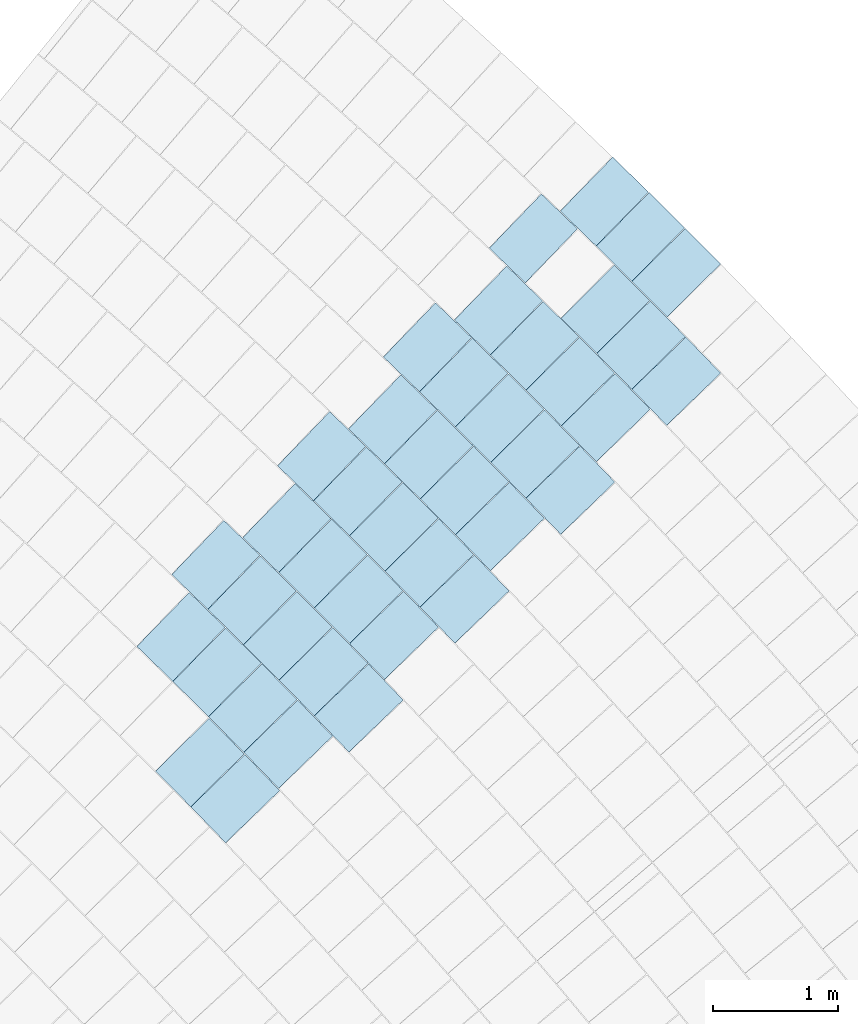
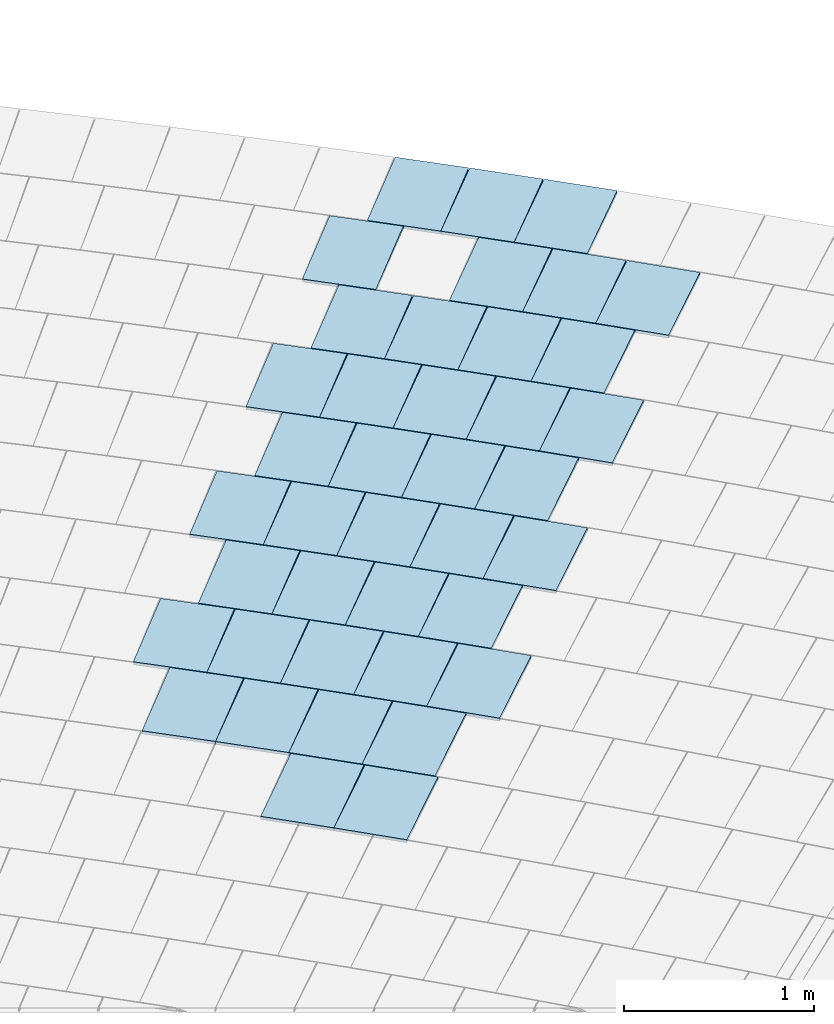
# One storey, part 14 of 438: 40 slabs.
"""IFC2X3 building model written with IfcOpenShell, lengths in millimetres."""

from ifc_helpers import new_model, entity, si_unit, converted_unit, derived_unit, direction, frame, origin, place, context, subcontext, project, spatial, polyline, outline, extrude, material, layer, layer_set, layer_usage, type_object, element, save


model = new_model("IFC2X3")

# Units and contexts
model_context = context("Model", 3, precision=0.01, world=origin(), true_north=direction((6.123031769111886e-17, 1.0)))
body_context = subcontext(model_context, "Body", "Model", "MODEL_VIEW")
ifc_project = project(units=[si_unit("LENGTHUNIT", "METRE", prefix="MILLI"), si_unit("AREAUNIT", "SQUARE_METRE"), si_unit("VOLUMEUNIT", "CUBIC_METRE"), converted_unit("PLANEANGLEUNIT", "DEGREE", entity("IfcRatioMeasure", 0.017453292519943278), si_unit("PLANEANGLEUNIT", "RADIAN"), dimensions=[0, 0, 0, 0, 0, 0, 0]), si_unit("MASSUNIT", "GRAM", prefix="KILO"), derived_unit("MASSDENSITYUNIT", [(si_unit("MASSUNIT", "GRAM", prefix="KILO"), 1), (si_unit("LENGTHUNIT", "METRE"), -3)]), derived_unit("MOMENTOFINERTIAUNIT", [(si_unit("LENGTHUNIT", "METRE"), 4)]), si_unit("TIMEUNIT", "SECOND"), si_unit("FREQUENCYUNIT", "HERTZ"), si_unit("THERMODYNAMICTEMPERATUREUNIT", "DEGREE_CELSIUS"), derived_unit("THERMALTRANSMITTANCEUNIT", [(si_unit("MASSUNIT", "GRAM", prefix="KILO"), 1), (si_unit("THERMODYNAMICTEMPERATUREUNIT", "KELVIN"), -1), (si_unit("TIMEUNIT", "SECOND"), -3)]), derived_unit("THERMALCONDUCTANCEUNIT", [(si_unit("MASSUNIT", "GRAM", prefix="KILO"), 1), (si_unit("LENGTHUNIT", "METRE"), 1), (si_unit("THERMODYNAMICTEMPERATUREUNIT", "KELVIN"), -1), (si_unit("TIMEUNIT", "SECOND"), -3)]), derived_unit("VOLUMETRICFLOWRATEUNIT", [(si_unit("LENGTHUNIT", "METRE"), 3), (si_unit("TIMEUNIT", "SECOND"), -1)]), derived_unit("MASSFLOWRATEUNIT", [(si_unit("MASSUNIT", "GRAM", prefix="KILO"), 1), (si_unit("TIMEUNIT", "SECOND"), -1)]), derived_unit("ROTATIONALFREQUENCYUNIT", [(si_unit("TIMEUNIT", "SECOND"), -1)]), si_unit("ELECTRICCURRENTUNIT", "AMPERE"), si_unit("ELECTRICVOLTAGEUNIT", "VOLT"), si_unit("POWERUNIT", "WATT"), converted_unit("FORCEUNIT", "KIP", entity("IfcRatioMeasure", 2.088543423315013e-05), si_unit("FORCEUNIT", "NEWTON"), dimensions=[1, 1, -2, 0, 0, 0, 0]), si_unit("ILLUMINANCEUNIT", "LUX"), si_unit("LUMINOUSFLUXUNIT", "LUMEN"), si_unit("LUMINOUSINTENSITYUNIT", "CANDELA"), derived_unit("USERDEFINED", [(si_unit("MASSUNIT", "GRAM", prefix="KILO"), -1), (si_unit("LENGTHUNIT", "METRE"), -2), (si_unit("TIMEUNIT", "SECOND"), 3), (si_unit("LUMINOUSFLUXUNIT", "LUMEN"), 1)]), derived_unit("USERDEFINED", [(si_unit("MASSUNIT", "GRAM", prefix="KILO"), 1), (si_unit("LENGTHUNIT", "METRE"), 3), (si_unit("TIMEUNIT", "SECOND"), -3), (si_unit("ELECTRICCURRENTUNIT", "AMPERE"), -2)]), derived_unit("USERDEFINED", [(si_unit("LENGTHUNIT", "METRE"), 2), (si_unit("TIMEUNIT", "SECOND"), -2)]), derived_unit("SOUNDPOWERUNIT", [(si_unit("MASSUNIT", "GRAM", prefix="KILO"), 1), (si_unit("LENGTHUNIT", "METRE"), 2), (si_unit("TIMEUNIT", "SECOND"), -3)]), derived_unit("SOUNDPRESSUREUNIT", [(si_unit("MASSUNIT", "GRAM", prefix="KILO"), 1), (si_unit("LENGTHUNIT", "METRE"), -1), (si_unit("TIMEUNIT", "SECOND"), -2)]), derived_unit("LINEARVELOCITYUNIT", [(si_unit("LENGTHUNIT", "METRE"), 1), (si_unit("TIMEUNIT", "SECOND"), -1)]), si_unit("PRESSUREUNIT", "PASCAL"), derived_unit("USERDEFINED", [(si_unit("LENGTHUNIT", "METRE"), -2), (si_unit("MASSUNIT", "GRAM", prefix="KILO"), 1), (si_unit("TIMEUNIT", "SECOND"), -2)]), derived_unit("LINEARFORCEUNIT", [(si_unit("MASSUNIT", "GRAM", prefix="KILO"), 1), (si_unit("LENGTHUNIT", "METRE"), 1), (si_unit("TIMEUNIT", "SECOND"), -2), (si_unit("LENGTHUNIT", "METRE"), -1)]), derived_unit("PLANARFORCEUNIT", [(si_unit("MASSUNIT", "GRAM", prefix="KILO"), 1), (si_unit("LENGTHUNIT", "METRE"), 1), (si_unit("TIMEUNIT", "SECOND"), -2), (si_unit("LENGTHUNIT", "METRE"), -2)]), derived_unit("SPECIFICHEATCAPACITYUNIT", [(si_unit("LENGTHUNIT", "METRE"), 2), (si_unit("TIMEUNIT", "SECOND"), -2), (si_unit("THERMODYNAMICTEMPERATUREUNIT", "KELVIN"), -1)]), derived_unit("VAPORPERMEABILITYUNIT", [(si_unit("TIMEUNIT", "SECOND"), 1), (si_unit("LENGTHUNIT", "METRE"), -1)]), derived_unit("DYNAMICVISCOSITYUNIT", [(si_unit("MASSUNIT", "GRAM", prefix="KILO"), 1), (si_unit("LENGTHUNIT", "METRE"), -1), (si_unit("TIMEUNIT", "SECOND"), -1)]), derived_unit("THERMALEXPANSIONCOEFFICIENTUNIT", [(si_unit("THERMODYNAMICTEMPERATUREUNIT", "KELVIN"), -1)])], contexts=[model_context])

# Site, building, storey
site_placement = place(None, frame((0.0, 0.0, 0.0), z_axis=(0.0, 0.0, 1.0), x_axis=(0.8191520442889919, 0.5735764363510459, 0.0)))
site = spatial("IfcSite", under=ifc_project, at=site_placement, Name="Default", CompositionType="ELEMENT")
building_placement = place(site_placement, origin())
building = spatial("IfcBuilding", under=site, at=building_placement, CompositionType="ELEMENT")
storey_placement = place(building_placement, origin())
storey = spatial("IfcBuildingStorey", under=building, at=storey_placement, Name="PLAN", CompositionType="ELEMENT", Elevation=0.0)

# Slabs
ifc_material = material(Name="Paint-01")
ifc_layer = layer(ifc_material, 20.00000000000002)
ifc_layer_set = layer_set([ifc_layer], Name="Floor:Slab-179:1000")
ifc_layer_usage = layer_usage(ifc_layer_set, "AXIS3", "POSITIVE", 0.0)
slab_type = type_object("IfcSlabType", Name="Floor:Slab-179:1000", PredefinedType="FLOOR", material=ifc_layer_set)
slab_1_placement = place(storey_placement, origin())
element("IfcSlab", 1, at=slab_1_placement, inside=storey, type_object=slab_type, material=ifc_layer_usage, Name="Floor:Slab-179:1000", ObjectType="Floor:Slab-179:1000", PredefinedType="FLOOR", context=body_context, shape_type="SweptSolid", body=[
    extrude(outline(polyline([(-299.9999976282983, -200.00000294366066), (300.0, -200.00000294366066), (299.9999976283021, 200.0000029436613), (-300.0, 200.00000294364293), (-299.9999976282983, -200.00000294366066)])), frame((3416.4005147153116, -61043.92181777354, 520.0), z_axis=(0.0, 0.0, -1.0), x_axis=(0.9877713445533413, 0.15590949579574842, 0.0)), (0.0, 0.0, 1.0), 19.999999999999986),
])
slab_2_placement = place(storey_placement, origin())
element("IfcSlab", 2, at=slab_2_placement, inside=storey, type_object=slab_type, material=ifc_layer_usage, Name="Floor:Slab-179:1000", ObjectType="Floor:Slab-179:1000", PredefinedType="FLOOR", context=body_context, shape_type="SweptSolid", body=[
    extrude(outline(polyline([(-299.9999976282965, -200.000002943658), (300.0, -200.000002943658), (299.99999762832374, 200.00000294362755), (-300.0, 200.0000029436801), (-299.9999976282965, -200.000002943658)])), frame((5101.287816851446, -60107.7259183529, 520.0), z_axis=(0.0, 0.0, -1.0), x_axis=(0.9854301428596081, 0.17008066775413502, 0.0)), (0.0, 0.0, 1.0), 20.000000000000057),
])
slab_3_placement = place(storey_placement, origin())
element("IfcSlab", 3, at=slab_3_placement, inside=storey, type_object=slab_type, material=ifc_layer_usage, Name="Floor:Slab-179:1000", ObjectType="Floor:Slab-179:1000", PredefinedType="FLOOR", context=body_context, shape_type="SweptSolid", body=[
    extrude(outline(polyline([(-200.00000134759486, -299.9999986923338), (200.00000453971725, -299.99999869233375), (200.00000134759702, 299.99999869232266), (-200.00000453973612, 299.99999869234), (-200.00000134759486, -299.9999986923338)])), frame((4324.972683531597, -59231.07573634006, 520.0), z_axis=(0.0, 0.0, -1.0), x_axis=(0.1916139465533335, -0.9814703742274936, 0.0)), (0.0, 0.0, 1.0), 19.999999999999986),
])
slab_4_placement = place(storey_placement, origin())
element("IfcSlab", 4, at=slab_4_placement, inside=storey, type_object=slab_type, material=ifc_layer_usage, Name="Floor:Slab-179:1000", ObjectType="Floor:Slab-179:1000", PredefinedType="FLOOR", context=body_context, shape_type="SweptSolid", body=[
    extrude(outline(polyline([(-200.0000013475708, -299.99999869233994), (200.00000453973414, -299.99999869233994), (200.00000134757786, 299.999998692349), (-200.0000045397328, 299.99999869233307), (-200.0000013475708, -299.99999869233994)])), frame((3768.8154351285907, -59542.053725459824, 520.0), z_axis=(0.0, 0.0, -1.0), x_axis=(0.18726836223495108, -0.9823087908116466, 0.0)), (0.0, 0.0, 1.0), 19.99999999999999),
])
slab_5_placement = place(storey_placement, origin())
element("IfcSlab", 5, at=slab_5_placement, inside=storey, type_object=slab_type, material=ifc_layer_usage, Name="Floor:Slab-179:1000", ObjectType="Floor:Slab-179:1000", PredefinedType="FLOOR", context=body_context, shape_type="SweptSolid", body=[
    extrude(outline(polyline([(-299.9999976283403, -200.0000029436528), (300.0, -200.00000294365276), (299.99999762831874, 200.00000294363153), (-300.0, 200.000002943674), (-299.9999976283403, -200.0000029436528)])), frame((-248.1927035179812, -61128.26278178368, 520.0), z_axis=(0.0, 0.0, -1.0), x_axis=(0.9858283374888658, 0.1677572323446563, 0.0)), (0.0, 0.0, 1.0), 20.000000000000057),
])
slab_6_placement = place(storey_placement, origin())
element("IfcSlab", 6, at=slab_6_placement, inside=storey, type_object=slab_type, material=ifc_layer_usage, Name="Floor:Slab-179:1000", ObjectType="Floor:Slab-179:1000", PredefinedType="FLOOR", context=body_context, shape_type="SweptSolid", body=[
    extrude(outline(polyline([(-299.99999762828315, -200.00000294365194), (300.0, -200.00000294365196), (299.99999762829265, 200.00000294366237), (-300.0, 200.00000294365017), (-299.99999762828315, -200.00000294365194)])), frame((346.20475063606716, -61014.85857028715, 520.0), z_axis=(0.0, 0.0, -1.0), x_axis=(0.9857791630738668, 0.16804595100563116, 0.0)), (0.0, 0.0, 1.0), 20.000000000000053),
])
slab_7_placement = place(storey_placement, origin())
element("IfcSlab", 7, at=slab_7_placement, inside=storey, type_object=slab_type, material=ifc_layer_usage, Name="Floor:Slab-179:1000", ObjectType="Floor:Slab-179:1000", PredefinedType="FLOOR", context=body_context, shape_type="SweptSolid", body=[
    extrude(outline(polyline([(-299.9999976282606, -200.00000294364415), (300.0, -200.00000294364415), (299.9999976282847, 200.00000294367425), (-300.0, 200.00000294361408), (-299.9999976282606, -200.00000294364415)])), frame((2227.227166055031, -61270.88751505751, 520.0), z_axis=(0.0, 0.0, -1.0), x_axis=(0.9879113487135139, 0.15501989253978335, 0.0)), (0.0, 0.0, 1.0), 19.99999999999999),
])
slab_8_placement = place(storey_placement, origin())
element("IfcSlab", 8, at=slab_8_placement, inside=storey, type_object=slab_type, material=ifc_layer_usage, Name="Floor:Slab-179:1000", ObjectType="Floor:Slab-179:1000", PredefinedType="FLOOR", context=body_context, shape_type="SweptSolid", body=[
    extrude(outline(polyline([(-200.00000134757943, -299.9999986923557), (200.0000045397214, -299.99999869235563), (200.0000013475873, 299.9999986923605), (-200.00000453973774, 299.999998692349), (-200.00000134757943, -299.9999986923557)])), frame((759.1316252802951, -59910.75366104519, 520.0), z_axis=(0.0, 0.0, -1.0), x_axis=(0.1919933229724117, -0.9813962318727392, 0.0)), (0.0, 0.0, 1.0), 19.99999999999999),
])
slab_9_placement = place(storey_placement, origin())
element("IfcSlab", 9, at=slab_9_placement, inside=storey, type_object=slab_type, material=ifc_layer_usage, Name="Floor:Slab-179:1000", ObjectType="Floor:Slab-179:1000", PredefinedType="FLOOR", context=body_context, shape_type="SweptSolid", body=[
    extrude(outline(polyline([(-299.9999976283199, -200.00000294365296), (300.0, -200.00000294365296), (299.99999762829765, 200.00000294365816), (-300.0, 200.0000029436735), (-299.9999976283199, -200.00000294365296)])), frame((1601.0251942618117, -61185.45165857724, 520.0), z_axis=(0.0, 0.0, -1.0), x_axis=(0.9872398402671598, 0.15924037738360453, 0.0)), (0.0, 0.0, 1.0), 20.000000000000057),
])
slab_10_placement = place(storey_placement, origin())
element("IfcSlab", 10, at=slab_10_placement, inside=storey, type_object=slab_type, material=ifc_layer_usage, Name="Floor:Slab-179:1000", ObjectType="Floor:Slab-179:1000", PredefinedType="FLOOR", context=body_context, shape_type="SweptSolid", body=[
    extrude(outline(polyline([(-299.9999976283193, -200.0000029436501), (300.0, -200.0000029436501), (299.9999976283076, 200.00000294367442), (-300.0, 200.00000294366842), (-299.9999976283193, -200.0000029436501)])), frame((1465.189807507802, -60391.31122035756, 520.0), z_axis=(0.0, 0.0, -1.0), x_axis=(0.9840410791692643, 0.17794143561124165, 0.0)), (0.0, 0.0, 1.0), 20.000000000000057),
])
slab_11_placement = place(storey_placement, origin())
element("IfcSlab", 11, at=slab_11_placement, inside=storey, type_object=slab_type, material=ifc_layer_usage, Name="Floor:Slab-179:1000", ObjectType="Floor:Slab-179:1000", PredefinedType="FLOOR", context=body_context, shape_type="SweptSolid", body=[
    extrude(outline(polyline([(-200.00000134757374, -299.9999986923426), (200.00000453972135, -299.99999869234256), (200.00000134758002, 299.9999986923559), (-200.00000453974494, 299.99999869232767), (-200.00000134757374, -299.9999986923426)])), frame((4957.409072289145, -59315.459008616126, 520.0), z_axis=(0.0, 0.0, -1.0), x_axis=(0.1872683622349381, -0.982308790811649, 0.0)), (0.0, 0.0, 1.0), 20.000000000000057),
])
slab_12_placement = place(storey_placement, origin())
element("IfcSlab", 12, at=slab_12_placement, inside=storey, type_object=slab_type, material=ifc_layer_usage, Name="Floor:Slab-179:1000", ObjectType="Floor:Slab-179:1000", PredefinedType="FLOOR", context=body_context, shape_type="SweptSolid", body=[
    extrude(outline(polyline([(-299.99999762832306, -200.00000294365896), (300.0, -200.00000294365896), (299.99999762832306, 200.00000294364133), (-300.0, 200.00000294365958), (-299.99999762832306, -200.00000294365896)])), frame((2094.9066113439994, -60476.23498016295, 520.0), z_axis=(0.0, 0.0, -1.0), x_axis=(0.9848391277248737, 0.17347014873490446, 0.0)), (0.0, 0.0, 1.0), 20.000000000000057),
])
slab_13_placement = place(storey_placement, origin())
element("IfcSlab", 13, at=slab_13_placement, inside=storey, type_object=slab_type, material=ifc_layer_usage, Name="Floor:Slab-179:1000", ObjectType="Floor:Slab-179:1000", PredefinedType="FLOOR", context=body_context, shape_type="SweptSolid", body=[
    extrude(outline(polyline([(-200.00000134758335, -299.9999986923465), (200.00000453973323, -299.9999986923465), (200.00000134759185, 299.99999869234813), (-200.00000453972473, 299.99999869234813), (-200.00000134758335, -299.9999986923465)])), frame((1947.7464402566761, -59684.19630155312, 520.0), z_axis=(0.0, 0.0, -1.0), x_axis=(0.19185971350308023, -0.981422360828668, 0.0)), (0.0, 0.0, 1.0), 19.999999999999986),
])
slab_14_placement = place(storey_placement, origin())
element("IfcSlab", 14, at=slab_14_placement, inside=storey, type_object=slab_type, material=ifc_layer_usage, Name="Floor:Slab-179:1000", ObjectType="Floor:Slab-179:1000", PredefinedType="FLOOR", context=body_context, shape_type="SweptSolid", body=[
    extrude(outline(polyline([(-299.9999976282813, -200.0000029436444), (300.0, -200.0000029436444), (299.99999762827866, 200.00000294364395), (-300.0, 200.000002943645), (-299.9999976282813, -200.0000029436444)])), frame((2790.061527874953, -60958.6106259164, 520.0), z_axis=(0.0, 0.0, -1.0), x_axis=(0.9871133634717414, 0.16002252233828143, 0.0)), (0.0, 0.0, 1.0), 19.99999999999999),
])
slab_15_placement = place(storey_placement, origin())
element("IfcSlab", 15, at=slab_15_placement, inside=storey, type_object=slab_type, material=ifc_layer_usage, Name="Floor:Slab-179:1000", ObjectType="Floor:Slab-179:1000", PredefinedType="FLOOR", context=body_context, shape_type="SweptSolid", body=[
    extrude(outline(polyline([(-299.9999976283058, -200.0000029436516), (300.0, -200.0000029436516), (299.99999762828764, 200.00000294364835), (-300.0, 200.00000294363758), (-299.9999976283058, -200.0000029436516)])), frame((2653.825525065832, -60164.6518000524, 520.0), z_axis=(0.0, 0.0, -1.0), x_axis=(0.9839940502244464, 0.1782013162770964, 0.0)), (0.0, 0.0, 1.0), 20.000000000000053),
])
slab_16_placement = place(storey_placement, origin())
element("IfcSlab", 16, at=slab_16_placement, inside=storey, type_object=slab_type, material=ifc_layer_usage, Name="Floor:Slab-179:1000", ObjectType="Floor:Slab-179:1000", PredefinedType="FLOOR", context=body_context, shape_type="SweptSolid", body=[
    extrude(outline(polyline([(-299.9999976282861, -200.0000029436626), (300.0, -200.0000029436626), (299.9999976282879, 200.00000294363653), (-300.0, 200.00000294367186), (-299.9999976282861, -200.0000029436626)])), frame((2723.7740846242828, -60561.317106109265, 520.0), z_axis=(0.0, 0.0, -1.0), x_axis=(0.9855956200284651, 0.1691191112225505, 0.0)), (0.0, 0.0, 1.0), 20.000000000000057),
])
slab_17_placement = place(storey_placement, origin())
element("IfcSlab", 17, at=slab_17_placement, inside=storey, type_object=slab_type, material=ifc_layer_usage, Name="Floor:Slab-179:1000", ObjectType="Floor:Slab-179:1000", PredefinedType="FLOOR", context=body_context, shape_type="SweptSolid", body=[
    extrude(outline(polyline([(-299.9999976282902, -200.0000029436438), (300.0, -200.0000029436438), (299.9999976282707, 200.00000294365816), (-300.0, 200.0000029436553), (-299.9999976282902, -200.0000029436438)])), frame((3351.8036309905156, -60646.4118826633, 520.0), z_axis=(0.0, 0.0, -1.0), x_axis=(0.9863125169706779, 0.16488668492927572, 0.0)), (0.0, 0.0, 1.0), 20.000000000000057),
])
slab_18_placement = place(storey_placement, origin())
element("IfcSlab", 18, at=slab_18_placement, inside=storey, type_object=slab_type, material=ifc_layer_usage, Name="Floor:Slab-179:1000", ObjectType="Floor:Slab-179:1000", PredefinedType="FLOOR", context=body_context, shape_type="SweptSolid", body=[
    extrude(outline(polyline([(-299.99999762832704, -200.00000294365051), (300.0, -200.00000294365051), (299.9999976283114, 200.00000294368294), (-300.0, 200.00000294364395), (-299.99999762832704, -200.00000294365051)])), frame((3283.594123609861, -60249.50588749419, 520.0), z_axis=(0.0, 0.0, -1.0), x_axis=(0.9847721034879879, 0.17385023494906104, 0.0)), (0.0, 0.0, 1.0), 19.99999999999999),
])
slab_19_placement = place(storey_placement, origin())
element("IfcSlab", 19, at=slab_19_placement, inside=storey, type_object=slab_type, material=ifc_layer_usage, Name="Floor:Slab-179:1000", ObjectType="Floor:Slab-179:1000", PredefinedType="FLOOR", context=body_context, shape_type="SweptSolid", body=[
    extrude(outline(polyline([(-200.00000134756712, -299.99999869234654), (200.00000453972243, -299.9999986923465), (200.0000013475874, 299.99999869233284), (-200.00000453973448, 299.9999986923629), (-200.00000134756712, -299.99999869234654)])), frame((3136.3601044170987, -59457.63698714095, 520.0), z_axis=(0.0, 0.0, -1.0), x_axis=(0.1917334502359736, -0.9814470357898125, 0.0)), (0.0, 0.0, 1.0), 20.000000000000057),
])
slab_20_placement = place(storey_placement, origin())
element("IfcSlab", 20, at=slab_20_placement, inside=storey, type_object=slab_type, material=ifc_layer_usage, Name="Floor:Slab-179:1000", ObjectType="Floor:Slab-179:1000", PredefinedType="FLOOR", context=body_context, shape_type="SweptSolid", body=[
    extrude(outline(polyline([(-200.00000134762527, -299.99999869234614), (200.00000453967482, -299.99999869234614), (200.00000134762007, 299.99999869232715), (-200.0000045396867, 299.9999986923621), (-200.00000134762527, -299.99999869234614)])), frame((203.0345236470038, -60221.837875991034, 520.0), z_axis=(0.0, 0.0, -1.0), x_axis=(0.18726836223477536, -0.9823087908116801, 0.0)), (0.0, 0.0, 1.0), 19.999999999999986),
])
slab_21_placement = place(storey_placement, origin())
element("IfcSlab", 21, at=slab_21_placement, inside=storey, type_object=slab_type, material=ifc_layer_usage, Name="Floor:Slab-179:1000", ObjectType="Floor:Slab-179:1000", PredefinedType="FLOOR", context=body_context, shape_type="SweptSolid", body=[
    extrude(outline(polyline([(-200.00000134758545, -299.99999869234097), (200.00000453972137, -299.99999869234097), (200.00000134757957, 299.9999986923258), (-200.00000453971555, 299.99999869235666), (-200.00000134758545, -299.99999869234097)])), frame((2580.221797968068, -59768.64844230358, 520.0), z_axis=(0.0, 0.0, -1.0), x_axis=(0.1872683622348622, -0.9823087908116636, 0.0)), (0.0, 0.0, 1.0), 20.000000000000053),
])
slab_22_placement = place(storey_placement, origin())
element("IfcSlab", 22, at=slab_22_placement, inside=storey, type_object=slab_type, material=ifc_layer_usage, Name="Floor:Slab-179:1000", ObjectType="Floor:Slab-179:1000", PredefinedType="FLOOR", context=body_context, shape_type="SweptSolid", body=[
    extrude(outline(polyline([(-200.00000134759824, -299.99999869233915), (200.00000453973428, -299.99999869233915), (200.00000134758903, 299.9999986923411), (-200.00000453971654, 299.9999986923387), (-200.00000134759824, -299.99999869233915)])), frame((834.5788143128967, -60306.50891103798, 520.0), z_axis=(0.0, 0.0, -1.0), x_axis=(0.18253906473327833, -0.983198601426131, 0.0)), (0.0, 0.0, 1.0), 20.000000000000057),
])
slab_23_placement = place(storey_placement, origin())
element("IfcSlab", 23, at=slab_23_placement, inside=storey, type_object=slab_type, material=ifc_layer_usage, Name="Floor:Slab-179:1000", ObjectType="Floor:Slab-179:1000", PredefinedType="FLOOR", context=body_context, shape_type="SweptSolid", body=[
    extrude(outline(polyline([(-200.00000134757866, -299.99999869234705), (200.00000453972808, -299.99999869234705), (200.0000013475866, 299.9999986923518), (-200.00000453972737, 299.99999869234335), (-200.00000134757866, -299.99999869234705)])), frame((2023.178381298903, -60079.87156629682, 520.0), z_axis=(0.0, 0.0, -1.0), x_axis=(0.18267291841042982, -0.9831737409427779, 0.0)), (0.0, 0.0, 1.0), 20.000000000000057),
])
slab_24_placement = place(storey_placement, origin())
element("IfcSlab", 24, at=slab_24_placement, inside=storey, type_object=slab_type, material=ifc_layer_usage, Name="Floor:Slab-179:1000", ObjectType="Floor:Slab-179:1000", PredefinedType="FLOOR", context=body_context, shape_type="SweptSolid", body=[
    extrude(outline(polyline([(-299.99999762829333, -200.00000294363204), (300.0, -200.00000294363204), (299.99999762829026, 200.0000029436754), (-300.0, 200.00000294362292), (-299.99999762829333, -200.00000294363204)])), frame((1038.0197468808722, -61497.87453405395, 520.0), z_axis=(0.0, 0.0, -1.0), x_axis=(0.9880586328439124, 0.15407835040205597, 0.0)), (0.0, 0.0, 1.0), 20.000000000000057),
])
slab_25_placement = place(storey_placement, origin())
element("IfcSlab", 25, at=slab_25_placement, inside=storey, type_object=slab_type, material=ifc_layer_usage, Name="Floor:Slab-179:1000", ObjectType="Floor:Slab-179:1000", PredefinedType="FLOOR", context=body_context, shape_type="SweptSolid", body=[
    extrude(outline(polyline([(-299.9999976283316, -200.0000029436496), (300.0, -200.00000294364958), (299.9999976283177, 200.00000294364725), (-300.0, 200.00000294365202), (-299.9999976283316, -200.0000029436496)])), frame((1534.99091236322, -60788.05928747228, 520.0), z_axis=(0.0, 0.0, -1.0), x_axis=(0.9856848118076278, 0.16859849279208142, 0.0)), (0.0, 0.0, 1.0), 19.999999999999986),
])
slab_26_placement = place(storey_placement, origin())
element("IfcSlab", 26, at=slab_26_placement, inside=storey, type_object=slab_type, material=ifc_layer_usage, Name="Floor:Slab-179:1000", ObjectType="Floor:Slab-179:1000", PredefinedType="FLOOR", context=body_context, shape_type="SweptSolid", body=[
    extrude(outline(polyline([(-299.99999762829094, -200.00000294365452), (300.0, -200.00000294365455), (299.99999762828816, 200.0000029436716), (-300.0, 200.00000294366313), (-299.99999762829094, -200.00000294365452)])), frame((3979.051937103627, -60731.64899153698, 520.0), z_axis=(0.0, 0.0, -1.0), x_axis=(0.9869926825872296, 0.16076518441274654, 0.0)), (0.0, 0.0, 1.0), 20.000000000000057),
])
slab_27_placement = place(storey_placement, origin())
element("IfcSlab", 27, at=slab_27_placement, inside=storey, type_object=slab_type, material=ifc_layer_usage, Name="Floor:Slab-179:1000", ObjectType="Floor:Slab-179:1000", PredefinedType="FLOOR", context=body_context, shape_type="SweptSolid", body=[
    extrude(outline(polyline([(-299.9999976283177, -200.00000294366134), (300.0, -200.00000294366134), (299.99999762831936, 200.0000029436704), (-300.0, 200.00000294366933), (-299.9999976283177, -200.00000294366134)])), frame((3912.5316023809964, -60334.49383109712, 520.0), z_axis=(0.0, 0.0, -1.0), x_axis=(0.9855106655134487, 0.16961346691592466, 0.0)), (0.0, 0.0, 1.0), 20.000000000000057),
])
slab_28_placement = place(storey_placement, origin())
element("IfcSlab", 28, at=slab_28_placement, inside=storey, type_object=slab_type, material=ifc_layer_usage, Name="Floor:Slab-179:1000", ObjectType="Floor:Slab-179:1000", PredefinedType="FLOOR", context=body_context, shape_type="SweptSolid", body=[
    extrude(outline(polyline([(-299.9999976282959, -200.00000294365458), (300.0, -200.00000294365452), (299.9999976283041, 200.00000294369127), (-300.0, 200.00000294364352), (-299.9999976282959, -200.00000294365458)])), frame((3842.450888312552, -59937.951437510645, 520.0), z_axis=(0.0, 0.0, -1.0), x_axis=(0.9839493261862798, 0.17844809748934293, 0.0)), (0.0, 0.0, 1.0), 19.999999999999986),
])
slab_29_placement = place(storey_placement, origin())
element("IfcSlab", 29, at=slab_29_placement, inside=storey, type_object=slab_type, material=ifc_layer_usage, Name="Floor:Slab-179:1000", ObjectType="Floor:Slab-179:1000", PredefinedType="FLOOR", context=body_context, shape_type="SweptSolid", body=[
    extrude(outline(polyline([(-299.9999976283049, -200.0000029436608), (300.0, -200.0000029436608), (299.99999762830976, 200.0000029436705), (-300.0, 200.00000294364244), (-299.9999976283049, -200.0000029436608)])), frame((4472.2765545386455, -60022.78392027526, 520.0), z_axis=(0.0, 0.0, -1.0), x_axis=(0.9847085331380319, 0.17420994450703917, 0.0)), (0.0, 0.0, 1.0), 20.000000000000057),
])
slab_30_placement = place(storey_placement, origin())
element("IfcSlab", 30, at=slab_30_placement, inside=storey, type_object=slab_type, material=ifc_layer_usage, Name="Floor:Slab-179:1000", ObjectType="Floor:Slab-179:1000", PredefinedType="FLOOR", context=body_context, shape_type="SweptSolid", body=[
    extrude(outline(polyline([(-299.99999762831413, -200.00000294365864), (300.0, -200.00000294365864), (299.9999976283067, 200.00000294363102), (-300.0, 200.00000294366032), (-299.99999762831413, -200.00000294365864)])), frame((4540.666993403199, -60419.58486812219, 520.0), z_axis=(0.0, 0.0, -1.0), x_axis=(0.986211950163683, 0.16548712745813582, 0.0)), (0.0, 0.0, 1.0), 20.000000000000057),
])
slab_31_placement = place(storey_placement, origin())
element("IfcSlab", 31, at=slab_31_placement, inside=storey, type_object=slab_type, material=ifc_layer_usage, Name="Floor:Slab-179:1000", ObjectType="Floor:Slab-179:1000", PredefinedType="FLOOR", context=body_context, shape_type="SweptSolid", body=[
    extrude(outline(polyline([(-200.00000134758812, -299.9999986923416), (200.0000045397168, -299.9999986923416), (200.00000134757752, 299.99999869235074), (-200.00000453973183, 299.999998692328), (-200.00000134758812, -299.9999986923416)])), frame((1391.6281608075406, -59995.24315914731, 520.0), z_axis=(0.0, 0.0, -1.0), x_axis=(0.18726836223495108, -0.9823087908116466, 0.0)), (0.0, 0.0, 1.0), 19.99999999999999),
])
slab_32_placement = place(storey_placement, origin())
element("IfcSlab", 32, at=slab_32_placement, inside=storey, type_object=slab_type, material=ifc_layer_usage, Name="Floor:Slab-179:1000", ObjectType="Floor:Slab-179:1000", PredefinedType="FLOOR", context=body_context, shape_type="SweptSolid", body=[
    extrude(outline(polyline([(-200.00000134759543, -299.99999869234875), (200.00000453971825, -299.9999986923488), (200.0000013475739, 299.99999869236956), (-200.00000453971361, 299.99999869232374), (-200.00000134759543, -299.99999869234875)])), frame((3211.777634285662, -59853.23666116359, 520.0), z_axis=(0.0, 0.0, -1.0), x_axis=(0.18279940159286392, -0.983150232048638, 0.0)), (0.0, 0.0, 1.0), 20.000000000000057),
])
slab_33_placement = place(storey_placement, origin())
element("IfcSlab", 33, at=slab_33_placement, inside=storey, type_object=slab_type, material=ifc_layer_usage, Name="Floor:Slab-179:1000", ObjectType="Floor:Slab-179:1000", PredefinedType="FLOOR", context=body_context, shape_type="SweptSolid", body=[
    extrude(outline(polyline([(-299.9999976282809, -200.00000294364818), (300.0, -200.00000294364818), (299.99999762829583, 200.00000294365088), (-300.0, 200.00000294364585), (-299.9999976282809, -200.00000294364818)])), frame((5031.078474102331, -59711.27828465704, 520.0), z_axis=(0.0, 0.0, -1.0), x_axis=(0.9839069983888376, 0.17868133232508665, 0.0)), (0.0, 0.0, 1.0), 19.99999999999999),
])
slab_34_placement = place(storey_placement, origin())
element("IfcSlab", 34, at=slab_34_placement, inside=storey, type_object=slab_type, material=ifc_layer_usage, Name="Floor:Slab-179:1000", ObjectType="Floor:Slab-179:1000", PredefinedType="FLOOR", context=body_context, shape_type="SweptSolid", body=[
    extrude(outline(polyline([(-299.99999762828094, -200.000002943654), (300.0, -200.000002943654), (299.99999762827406, 200.00000294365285), (-300.0, 200.0000029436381), (-299.99999762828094, -200.000002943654)])), frame((2162.9248558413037, -60873.25187057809, 520.0), z_axis=(0.0, 0.0, -1.0), x_axis=(0.9864183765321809, 0.16425220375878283, 0.0)), (0.0, 0.0, 1.0), 20.000000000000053),
])
slab_35_placement = place(storey_placement, origin())
element("IfcSlab", 35, at=slab_35_placement, inside=storey, type_object=slab_type, material=ifc_layer_usage, Name="Floor:Slab-179:1000", ObjectType="Floor:Slab-179:1000", PredefinedType="FLOOR", context=body_context, shape_type="SweptSolid", body=[
    extrude(outline(polyline([(-299.99999762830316, -200.0000029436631), (300.0, -200.0000029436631), (299.99999762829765, 200.0000029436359), (-300.0, 200.00000294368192), (-299.99999762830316, -200.0000029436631)])), frame((4605.542532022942, -60816.975618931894, 520.0), z_axis=(0.0, 0.0, -1.0), x_axis=(0.9876380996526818, 0.15675134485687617, 0.0)), (0.0, 0.0, 1.0), 19.99999999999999),
])
slab_36_placement = place(storey_placement, origin())
element("IfcSlab", 36, at=slab_36_placement, inside=storey, type_object=slab_type, material=ifc_layer_usage, Name="Floor:Slab-179:1000", ObjectType="Floor:Slab-179:1000", PredefinedType="FLOOR", context=body_context, shape_type="SweptSolid", body=[
    extrude(outline(polyline([(-299.99999762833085, -200.00000294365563), (300.0, -200.00000294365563), (299.99999762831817, 200.00000294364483), (-300.0, 200.00000294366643), (-299.99999762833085, -200.00000294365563)])), frame((-182.56160378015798, -61525.851263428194, 520.0), z_axis=(0.0, 0.0, -1.0), x_axis=(0.987442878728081, 0.1579764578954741, 0.0)), (0.0, 0.0, 1.0), 20.000000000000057),
])
slab_37_placement = place(storey_placement, origin())
element("IfcSlab", 37, at=slab_37_placement, inside=storey, type_object=slab_type, material=ifc_layer_usage, Name="Floor:Slab-179:1000", ObjectType="Floor:Slab-179:1000", PredefinedType="FLOOR", context=body_context, shape_type="SweptSolid", body=[
    extrude(outline(polyline([(-299.99999762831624, -200.00000294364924), (300.0, -200.00000294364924), (299.9999976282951, 200.00000294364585), (-300.0, 200.00000294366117), (-299.99999762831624, -200.00000294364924)])), frame((411.97425400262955, -61412.37979847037, 520.0), z_axis=(0.0, 0.0, -1.0), x_axis=(0.987373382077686, 0.15841024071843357, 0.0)), (0.0, 0.0, 1.0), 19.999999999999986),
])
slab_38_placement = place(storey_placement, origin())
element("IfcSlab", 38, at=slab_38_placement, inside=storey, type_object=slab_type, material=ifc_layer_usage, Name="Floor:Slab-179:1000", ObjectType="Floor:Slab-179:1000", PredefinedType="FLOOR", context=body_context, shape_type="SweptSolid", body=[
    extrude(outline(polyline([(-299.99999762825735, -200.00000294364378), (300.0, -200.00000294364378), (299.9999976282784, 200.0000029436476), (-300.0, 200.00000294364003), (-299.99999762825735, -200.00000294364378)])), frame((276.55595944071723, -60617.99864498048, 520.0), z_axis=(0.0, 0.0, -1.0), x_axis=(0.9840909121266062, 0.17766563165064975, 0.0)), (0.0, 0.0, 1.0), 20.000000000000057),
])
slab_39_placement = place(storey_placement, origin())
element("IfcSlab", 39, at=slab_39_placement, inside=storey, type_object=slab_type, material=ifc_layer_usage, Name="Floor:Slab-179:1000", ObjectType="Floor:Slab-179:1000", PredefinedType="FLOOR", context=body_context, shape_type="SweptSolid", body=[
    extrude(outline(polyline([(-299.99999762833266, -200.00000294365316), (300.0, -200.00000294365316), (299.99999762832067, 200.00000294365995), (-300.0, 200.000002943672), (-299.99999762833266, -200.00000294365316)])), frame((974.0293340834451, -61100.10610481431, 520.0), z_axis=(0.0, 0.0, -1.0), x_axis=(0.9865299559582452, 0.16358070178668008, 0.0)), (0.0, 0.0, 1.0), 20.000000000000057),
])
slab_40_placement = place(storey_placement, origin())
element("IfcSlab", 40, at=slab_40_placement, inside=storey, type_object=slab_type, material=ifc_layer_usage, Name="Floor:Slab-179:1000", ObjectType="Floor:Slab-179:1000", PredefinedType="FLOOR", context=body_context, shape_type="SweptSolid", body=[
    extrude(outline(polyline([(-299.9999976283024, -200.00000294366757), (300.0, -200.00000294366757), (299.9999976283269, 200.00000294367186), (-300.0, 200.0000029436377), (-299.9999976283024, -200.00000294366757)])), frame((906.2135960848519, -60702.97196889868, 520.0), z_axis=(0.0, 0.0, -1.0), x_axis=(0.9849098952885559, 0.17306790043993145, 0.0)), (0.0, 0.0, 1.0), 19.999999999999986),
])

save(model, "model.ifc")
